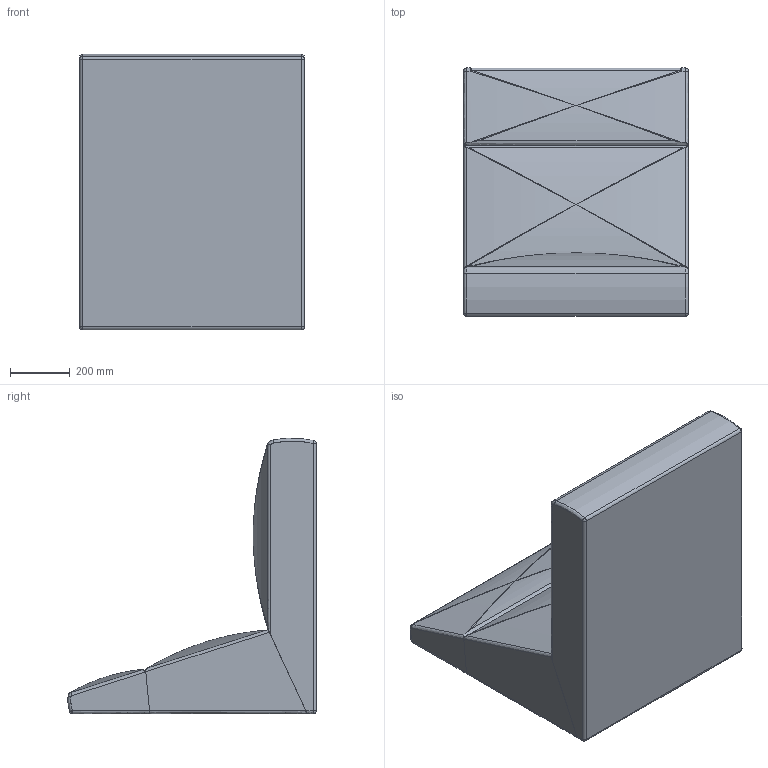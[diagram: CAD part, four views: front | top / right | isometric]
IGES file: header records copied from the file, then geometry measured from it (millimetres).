
Start section: SolidWorks IGES file using analytic representation for surfaces
Global section: file name: \\Logicserver\datos\01-VICCARBE\PRODUCTOS\53-SISTEMA\04-MODELADOS (PLANOS)\WEB\viccarbe-sistema-3D\Modulos\Modulo alto fino.IGS; native system: SolidWorks 2013; preprocessor: SolidWorks 2013; author: bdisenyo; date: 170120.105901; units: millimetre
Bounding box: 750 x 828.78 x 919.53 mm (x, y, z)
Surface area: 3653925.9 mm2 (no closed solid volume)
Topology: 0 solids, 0 shells, 79 faces, 1661 edges, 1648 vertices
Faces by surface type: bspline 40, revolution 39
